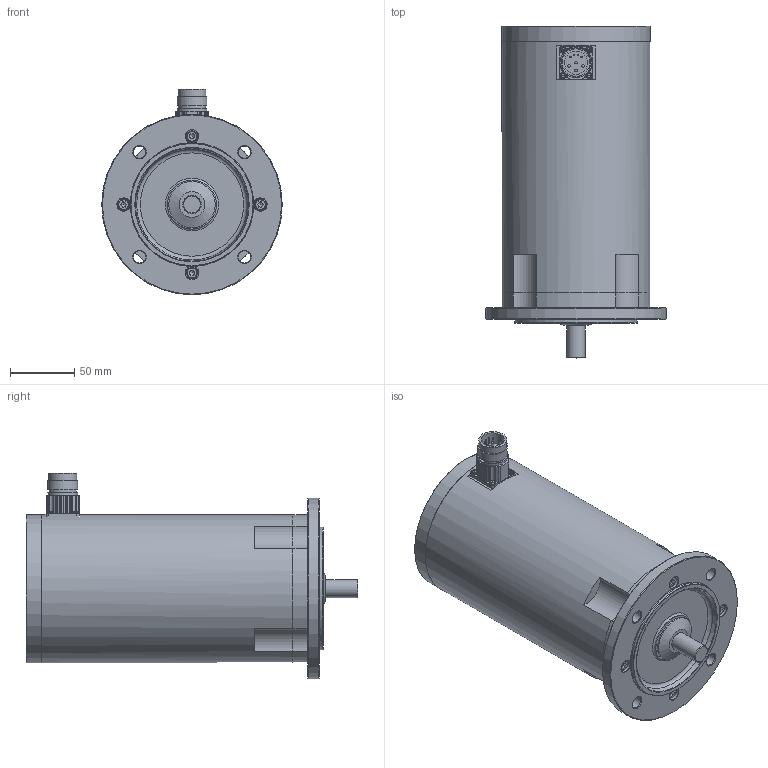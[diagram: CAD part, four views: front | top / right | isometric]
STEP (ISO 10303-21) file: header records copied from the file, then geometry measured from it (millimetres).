
FILE_DESCRIPTION(/* description */ (''),/* implementation_level */ '2;1');
FILE_NAME(/* name */ 'ksa_4x12e',/* time_stamp */ '2007-03-13T14:17:23+01:00',/* author */ (''),/* organization */ (''),/* preprocessor_version */ 'ST-DEVELOPER v8',/* originating_system */ 'UNIGRAPHICS SOLUTIONS - UNIGRAPHICS 18.0',/* authorisation */ '');
FILE_SCHEMA (('AUTOMOTIVE_DESIGN { 1 2 10303 214 0 1 1 1 }'));
Length unit declared in the file: millimetre
Products named in the file (11): DIN3760_org_A15x30x7_0; din912-m5x25_A; iso1580-m2.5x6_A; din912-m4x16_A; 114109_0; 014260_0; Gehaeuse SA 4 E_0; 114108_0; 06331201_0; Rotor-SA 4 E_0; KSA444_E_0
Assembly tree (19 placements, depth 2):
  KSA444_E_0
    Rotor-SA 4 E_0
    06331201_0
    114108_0
    Gehaeuse SA 4 E_0
    014260_0
    114109_0
    din912-m4x16_A  x4
    iso1580-m2.5x6_A  x4
    din912-m5x25_A  x4
    DIN3760_org_A15x30x7_0
Bounding box: 140 x 257.5 x 159.5 mm (x, y, z)
Volume: 1524899.7 mm3; surface area: 229823.4 mm2
Topology: 19 solids, 19 shells, 505 faces, 1160 edges, 727 vertices
Faces by surface type: plane 216, cylinder 165, cone 78, torus 34, sphere 8, bspline 4
Full cylindrical faces by diameter (mm): 1 x4, 1.948 x4, 2 x4, 2.5 x4, 2.7 x4, 3 x4, 3.013 x1, 4 x8, 4.5 x4, 5 x4, 5.5 x4, 7 x4, 8 x4, 8.5 x4, 9.5 x4, 10 x4, 13.52 x1, 13.9 x1, 14 x1, 15 x2, 15.3 x1, 18 x1, 20 x2, 21 x1, 21.5 x1, 23 x2, 27 x1, 30 x4, 35 x2, 36 x1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
Entity records: 9071 total; most frequent: DIRECTION 1678, CARTESIAN_POINT 1569, ORIENTED_EDGE 1144, AXIS2_PLACEMENT_3D 761, EDGE_CURVE 572, EDGE_LOOP 562, VERTEX_POINT 447, CIRCLE 408
